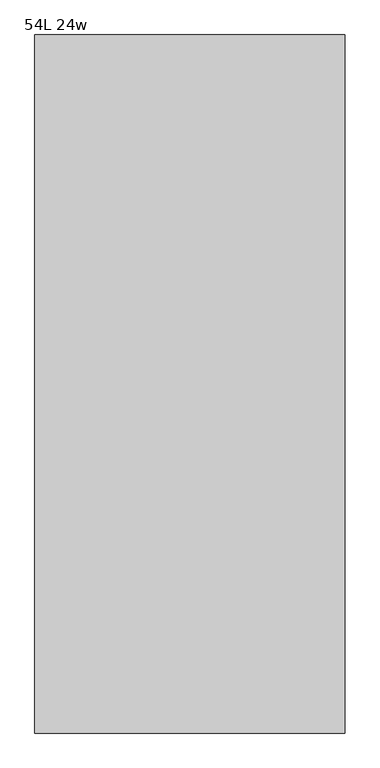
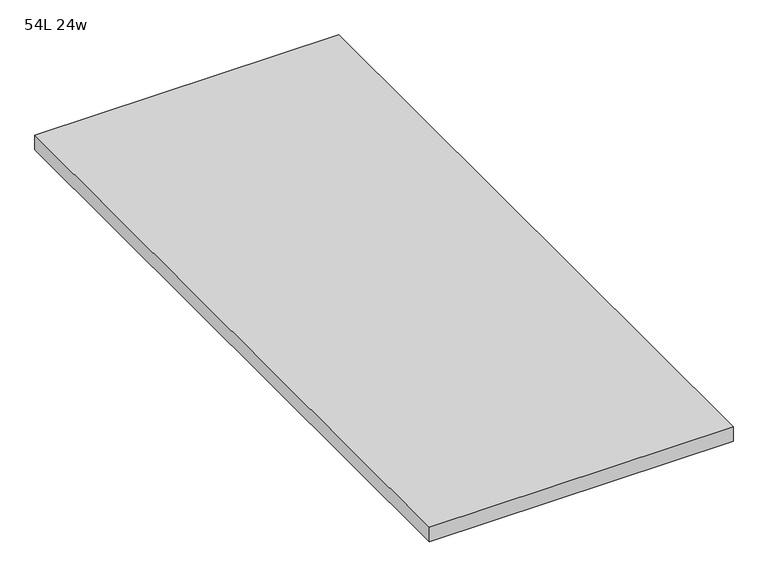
"""IFC4 building model written with IfcOpenShell, lengths in millimetres: furniture geometry, Haworth_Compose_Worksurface_RectangularConvergent : 54L 24w."""

from ifc_helpers import new_model, si_unit, frame, origin, place, context, project, spatial, polyline, outline, extrude, source, transform, mapped, element, save


def furniture_54l_24w_ec741d94(model_context):
    return source(origin(), model_context, "Body", "SweptSolid", [
        extrude(outline(polyline([(-304.8, -685.8), (-304.8, 685.8), (304.8, 685.8), (304.8, -685.8), (-304.8, -685.8)])), frame((0.0, 0.0, 706.4375), z_axis=(0.0, 0.0, 1.0), x_axis=(1.0, 0.0, 0.0)), (0.0, 0.0, 1.0), 30.1625),
    ])


if __name__ == "__main__":
    model = new_model("IFC4")
    model_context = context("Model", 3, world=origin())
    ifc_project = project(units=[si_unit("LENGTHUNIT", "METRE", prefix="MILLI")], contexts=[model_context])
    site = spatial("IfcSite", under=ifc_project)
    building = spatial("IfcBuilding", under=site)
    placement = place(None, origin())
    furniture_54l_24w_shape = furniture_54l_24w_ec741d94(model_context)
    element("IfcFurniture", 1, ObjectType="Haworth_Compose_Worksurface_RectangularConvergent : 54L 24w", at=placement, inside=building, context=model_context, shape_type="MappedRepresentation", body=[
        mapped(furniture_54l_24w_shape, transform((0.0, 0.0, 0.0), x_axis=(1.0, 0.0, 0.0), y_axis=(0.0, 1.0, 0.0), z_axis=(0.0, 0.0, 1.0))),
    ])
    save(model, "model.ifc")
